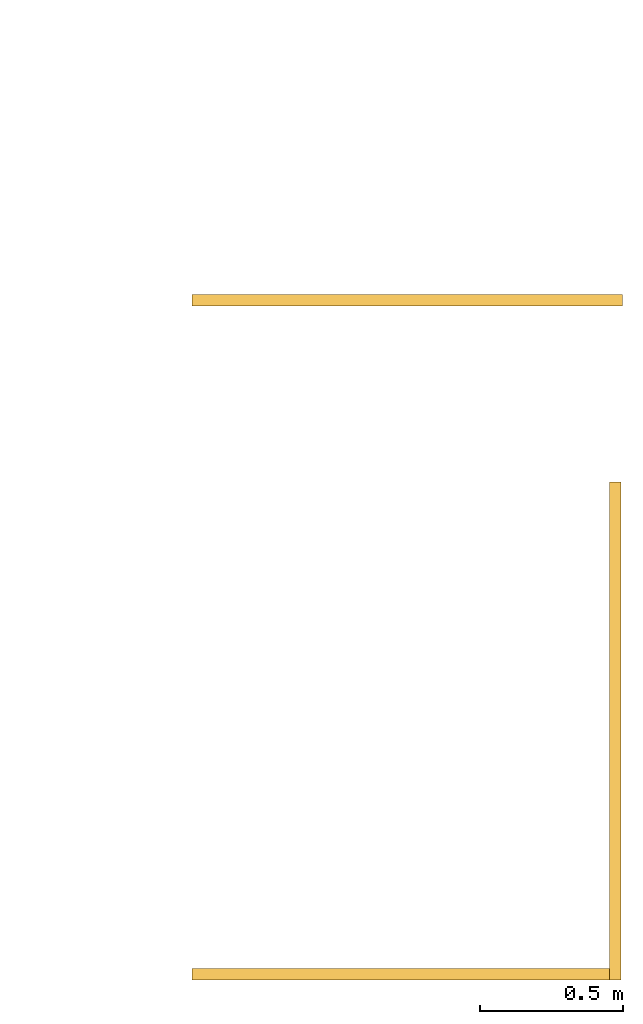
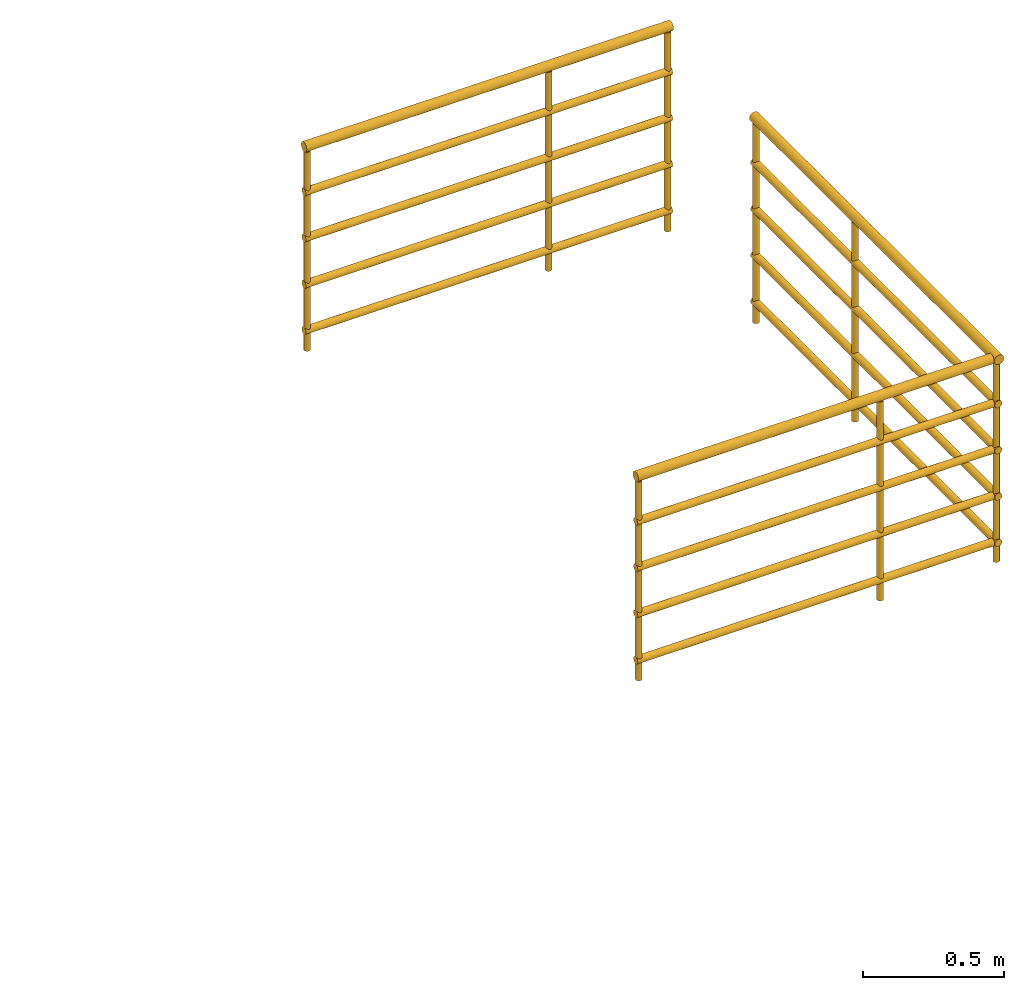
# One storey, part 2 of 2: 2 railings.
"""IFC2X3 building model written with IfcOpenShell, lengths in millimetres."""

from ifc_helpers import new_model, entity, si_unit, converted_unit, derived_unit, direction, frame, origin, origin_2d_with_axis, place, context, subcontext, project, spatial, circle, extrude, element, save


model = new_model("IFC2X3")

# Units and contexts
model_context = context("Model", 3, precision=0.01, world=origin(), true_north=direction((6.12303176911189e-17, 1.0)))
body_context = subcontext(model_context, "Body", "Model", "MODEL_VIEW")
ifc_project = project(units=[si_unit("LENGTHUNIT", "METRE", prefix="MILLI"), si_unit("AREAUNIT", "SQUARE_METRE"), si_unit("VOLUMEUNIT", "CUBIC_METRE"), converted_unit("PLANEANGLEUNIT", "DEGREE", entity("IfcRatioMeasure", 0.0174532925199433), si_unit("PLANEANGLEUNIT", "RADIAN"), dimensions=[0, 0, 0, 0, 0, 0, 0]), si_unit("MASSUNIT", "GRAM", prefix="KILO"), derived_unit("MASSDENSITYUNIT", [(si_unit("MASSUNIT", "GRAM", prefix="KILO"), 1), (si_unit("LENGTHUNIT", "METRE"), -3)]), si_unit("TIMEUNIT", "SECOND"), si_unit("FREQUENCYUNIT", "HERTZ"), si_unit("THERMODYNAMICTEMPERATUREUNIT", "DEGREE_CELSIUS"), derived_unit("THERMALTRANSMITTANCEUNIT", [(si_unit("MASSUNIT", "GRAM", prefix="KILO"), 1), (si_unit("THERMODYNAMICTEMPERATUREUNIT", "KELVIN"), -1), (si_unit("TIMEUNIT", "SECOND"), -3)]), derived_unit("VOLUMETRICFLOWRATEUNIT", [(si_unit("LENGTHUNIT", "METRE"), 3), (si_unit("TIMEUNIT", "SECOND"), -1)]), si_unit("ELECTRICCURRENTUNIT", "AMPERE"), si_unit("ELECTRICVOLTAGEUNIT", "VOLT"), si_unit("POWERUNIT", "WATT"), si_unit("FORCEUNIT", "NEWTON", prefix="KILO"), si_unit("ILLUMINANCEUNIT", "LUX"), si_unit("LUMINOUSFLUXUNIT", "LUMEN"), si_unit("LUMINOUSINTENSITYUNIT", "CANDELA"), derived_unit("USERDEFINED", [(si_unit("MASSUNIT", "GRAM", prefix="KILO"), -1), (si_unit("LENGTHUNIT", "METRE"), -2), (si_unit("TIMEUNIT", "SECOND"), 3), (si_unit("LUMINOUSFLUXUNIT", "LUMEN"), 1)]), derived_unit("LINEARVELOCITYUNIT", [(si_unit("LENGTHUNIT", "METRE"), 1), (si_unit("TIMEUNIT", "SECOND"), -1)]), si_unit("PRESSUREUNIT", "PASCAL"), derived_unit("USERDEFINED", [(si_unit("LENGTHUNIT", "METRE"), -2), (si_unit("MASSUNIT", "GRAM", prefix="KILO"), 1), (si_unit("TIMEUNIT", "SECOND"), -2)])], contexts=[model_context])

# Site, building, storey
site_placement = place(None, origin())
site = spatial("IfcSite", under=ifc_project, at=site_placement, Name="表面", CompositionType="ELEMENT")
building_placement = place(site_placement, origin())
building = spatial("IfcBuilding", under=site, at=building_placement, CompositionType="ELEMENT")
storey_placement = place(building_placement, frame((0.0, 0.0, 6790.0)))
storey = spatial("IfcBuildingStorey", under=building, at=storey_placement, Name="6.790", CompositionType="ELEMENT", Elevation=6790.0)

# Railings
railing_1_placement = place(storey_placement, origin())
element("IfcRailing", 1, at=railing_1_placement, inside=storey, Name="栏杆扶手:900mm 圆管", ObjectType="栏杆扶手:900mm 圆管", PredefinedType="NOTDEFINED", context=body_context, shape_type="SweptSolid", body=[
    extrude(circle(Radius=12.5, at=origin_2d_with_axis()), frame((11686.201218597, 7934.69740738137, -790.0)), (0.0, 0.0, 1.0), 859.999999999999),
    extrude(circle(Radius=12.5, at=origin_2d_with_axis()), frame((11211.201218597, 6934.69740738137, -790.0), z_axis=(0.0, 0.0, 1.0), x_axis=(0.0, -1.0, 0.0)), (0.0, 0.0, 1.0), 859.999999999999),
    extrude(circle(Radius=12.5, at=origin_2d_with_axis()), frame((11686.201218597, 6934.69740738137, -790.0), z_axis=(0.0, 0.0, 1.0), x_axis=(0.0, -1.0, 0.0)), (0.0, 0.0, 1.0), 859.999999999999),
    extrude(circle(Radius=12.5, at=origin_2d_with_axis()), frame((11686.201218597, 8637.19740738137, -790.0)), (0.0, 0.0, 1.0), 859.999999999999),
    extrude(circle(Radius=12.5, at=origin_2d_with_axis()), frame((10223.701218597, 6934.69740738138, -790.0), z_axis=(0.0, 0.0, 1.0), x_axis=(0.0, -1.0, 0.0)), (0.0, 0.0, 1.0), 859.999999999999),
    extrude(circle(Radius=20.0, at=origin_2d_with_axis()), frame((10211.201218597, 6934.69740738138, 90.0), z_axis=(1.0, 0.0, 0.0), x_axis=(0.0, 1.0, 0.0)), (0.0, 0.0, 1.0), 1455.0),
    extrude(circle(Radius=20.0, at=origin_2d_with_axis()), frame((11686.201218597, 6914.69740738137, 90.0), z_axis=(0.0, 1.0, 0.0), x_axis=(-1.0, 0.0, 0.0)), (0.0, 0.0, 1.0), 1735.0),
    extrude(circle(Radius=15.0, at=origin_2d_with_axis()), frame((10211.201218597, 6934.69740738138, -105.0), z_axis=(1.0, 0.0, 0.0), x_axis=(0.0, 1.0, 0.0)), (0.0, 0.0, 1.0), 1460.0),
    extrude(circle(Radius=15.0, at=origin_2d_with_axis()), frame((11686.201218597, 6919.69740738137, -105.0), z_axis=(0.0, 1.0, 0.0), x_axis=(-1.0, 0.0, 0.0)), (0.0, 0.0, 1.0), 1730.0),
    extrude(circle(Radius=15.0, at=origin_2d_with_axis()), frame((10211.201218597, 6934.69740738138, -305.0), z_axis=(1.0, 0.0, 0.0), x_axis=(0.0, 1.0, 0.0)), (0.0, 0.0, 1.0), 1460.0),
    extrude(circle(Radius=15.0, at=origin_2d_with_axis()), frame((11686.201218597, 6919.69740738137, -305.0), z_axis=(0.0, 1.0, 0.0), x_axis=(-1.0, 0.0, 0.0)), (0.0, 0.0, 1.0), 1730.0),
    extrude(circle(Radius=15.0, at=origin_2d_with_axis()), frame((10211.201218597, 6934.69740738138, -505.0), z_axis=(1.0, 0.0, 0.0), x_axis=(0.0, 1.0, 0.0)), (0.0, 0.0, 1.0), 1460.0),
    extrude(circle(Radius=15.0, at=origin_2d_with_axis()), frame((11686.201218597, 6919.69740738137, -505.0), z_axis=(0.0, 1.0, 0.0), x_axis=(-1.0, 0.0, 0.0)), (0.0, 0.0, 1.0), 1730.0),
    extrude(circle(Radius=15.0, at=origin_2d_with_axis()), frame((10211.201218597, 6934.69740738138, -705.0), z_axis=(1.0, 0.0, 0.0), x_axis=(0.0, 1.0, 0.0)), (0.0, 0.0, 1.0), 1460.0),
    extrude(circle(Radius=15.0, at=origin_2d_with_axis()), frame((11686.201218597, 6919.69740738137, -705.0), z_axis=(0.0, 1.0, 0.0), x_axis=(-1.0, 0.0, 0.0)), (0.0, 0.0, 1.0), 1730.0),
])
railing_2_placement = place(storey_placement, origin())
element("IfcRailing", 2, at=railing_2_placement, inside=storey, Name="栏杆扶手:900mm 圆管", ObjectType="栏杆扶手:900mm 圆管", PredefinedType="NOTDEFINED", context=body_context, shape_type="SweptSolid", body=[
    extrude(circle(Radius=12.5, at=origin_2d_with_axis()), frame((11211.201218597, 9284.69740738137, -790.0), z_axis=(0.0, 0.0, 1.0), x_axis=(0.0, 1.0, 0.0)), (0.0, 0.0, 1.0), 859.999999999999),
    extrude(circle(Radius=12.5, at=origin_2d_with_axis()), frame((11698.701218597, 9284.69740738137, -790.0), z_axis=(0.0, 0.0, 1.0), x_axis=(0.0, 1.0, 0.0)), (0.0, 0.0, 1.0), 859.999999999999),
    extrude(circle(Radius=12.5, at=origin_2d_with_axis()), frame((10223.701218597, 9284.69740738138, -790.0), z_axis=(0.0, 0.0, 1.0), x_axis=(0.0, 1.0, 0.0)), (0.0, 0.0, 1.0), 859.999999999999),
    extrude(circle(Radius=20.0, at=origin_2d_with_axis()), frame((10211.201218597, 9284.69740738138, 90.0), z_axis=(1.0, 0.0, 0.0), x_axis=(0.0, -1.0, 0.0)), (0.0, 0.0, 1.0), 1500.0),
    extrude(circle(Radius=15.0, at=origin_2d_with_axis()), frame((10211.201218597, 9284.69740738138, -105.0), z_axis=(1.0, 0.0, 0.0), x_axis=(0.0, -1.0, 0.0)), (0.0, 0.0, 1.0), 1500.0),
    extrude(circle(Radius=15.0, at=origin_2d_with_axis()), frame((10211.201218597, 9284.69740738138, -305.0), z_axis=(1.0, 0.0, 0.0), x_axis=(0.0, -1.0, 0.0)), (0.0, 0.0, 1.0), 1500.0),
    extrude(circle(Radius=15.0, at=origin_2d_with_axis()), frame((10211.201218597, 9284.69740738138, -505.0), z_axis=(1.0, 0.0, 0.0), x_axis=(0.0, -1.0, 0.0)), (0.0, 0.0, 1.0), 1500.0),
    extrude(circle(Radius=15.0, at=origin_2d_with_axis()), frame((10211.201218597, 9284.69740738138, -705.0), z_axis=(1.0, 0.0, 0.0), x_axis=(0.0, -1.0, 0.0)), (0.0, 0.0, 1.0), 1500.0),
])

save(model, "model.ifc")
